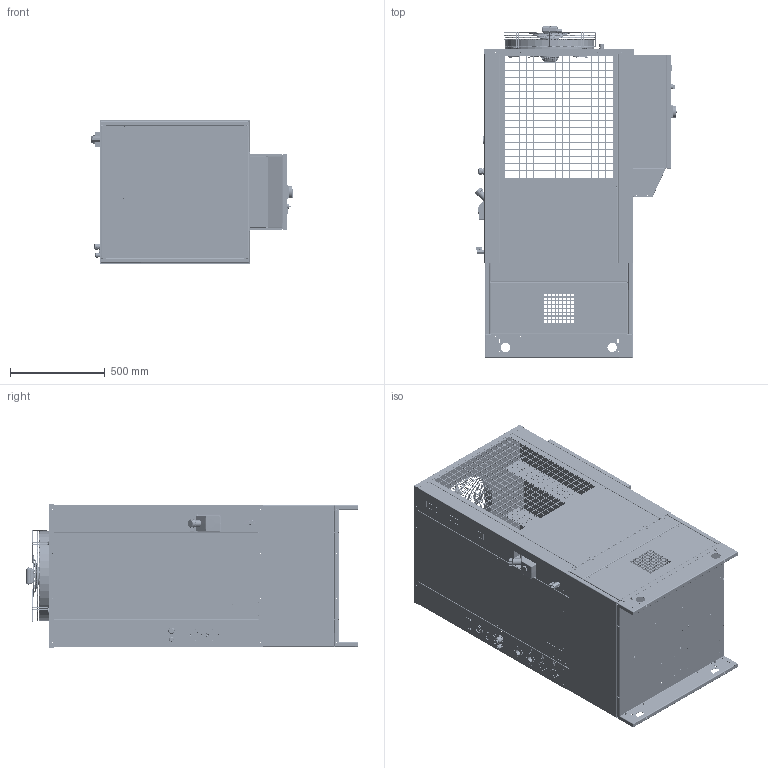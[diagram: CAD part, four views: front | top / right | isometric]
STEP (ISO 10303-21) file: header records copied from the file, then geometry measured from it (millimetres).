
FILE_DESCRIPTION (( 'STEP AP214' ), '1' );
FILE_NAME ('50-2D-00009+50-2D-00012+UL-CSA.STEP', '2018-12-12T11:08:21', ( 'Utente' ), ( 'Microsoft' ), 'SwSTEP 2.0', 'SolidWorks 2013', '' );
FILE_SCHEMA (( 'AUTOMOTIVE_DESIGN' ));
Length unit declared in the file: millimetre
Products named in the file (80): 450-021-C-Z_ASM; VE-W3-00002_000; CR-2D-00010_001; 6D-400-S-012_2_AF0; M3X12; RIVELOX M5; pg-21 nelco_part2_Nut-PA-Grey-33-33-31-Nelco; PRT0002_11_AF0; CXZ-M16_ASM_ASM; 6D-400-S-018-2_22_AF0; CXZ-M16_ASM_1_ASM; VR-3D-00021_000; pg-21 nelco_part1_Socket-1.209.2100.15-Nelco; 450-021-011_AF0; 6D-400-S-040-4_1; VR-2D-00005_001; ST-AT-00020_003; 6D-400-S-040-3_1; QE 400x600x200 + COMPONENTI; PG 13.5_Cable-Gland-1.209.1300.14-Nelco; JUNCTION-BOX-7_ASM; VR-2D-00008_001; DED965FB-6F17-44D8-8B5E-7FBD67AD56EC; PG 13.5_1_Socket-1.209.1300.14-Nelco; 8UF-TOPCOVER-1; SW3dPS-rotary switch_Dial; PG 13.5_2_Nut-PA-Grey-24-24-27-Nelco; 50-2D-00012; WATERPROOF-1; VR-2D-00012_000; SW3dPS-rotary switch_Cowling; VR-2D-00013_001; VR-2D-00024_001; LINKER; SW3dPS-rotary switch_Screw; 8UFCAPACITOR; VR-2D-00011_000; SW3dPS-rotary switch_Indicator Plate; VR-2D-00014_000; VR-2D-00023_003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
Assembly tree (170 placements, depth 5):
  50-2D-00009+50-2D-00012+UL-CSA
    VR-2D-00011_000
      VR-2D-00011_000
      Rivelox M5 Reduced Head Hexagonal Shank.  x8
    VR-2D-00012_000
      VR-2D-00012_000
      Rivelox M5 Reduced Head Hexagonal Shank.  x8
    VR-2D-00008_001
      VR-2D-00008_001
      Rivelox M5 Reduced Head Hexagonal Shank.  x2
    VR-2D-00005_001  x2
      VR-2D-00005_001
      Rivelox M5 Reduced Head Hexagonal Shank.
    VR-3D-00021_000
    CR-2D-00010_001
      CR-2D-00010_001
      RIVELOX M5  x6
    CR-2D-00009_001
      CR-2D-00009_001
      RIVELOX M5  x6
    CR-2D-00002_001
      CR-2D-00002_001
      RIVELOX M5  x6
    VR-2D-00001_002
      VR-2D-00001_002A
      VR-2D-00001_002B
    VR-2D-00014_000
      VR-2D-00014_000
      Rivelox M5 Reduced Head Hexagonal Shank.  x5
    VR-2D-00013_001
      VR-2D-00013_001
      Rivelox M5 Reduced Head Hexagonal Shank.  x5
    PG 13.5_Cable-Gland-1.209.1300.14-Nelco  x2
      PG 13.5_2_Nut-PA-Grey-24-24-27-Nelco
      PG 13.5_1_Socket-1.209.1300.14-Nelco
    ST-AT-00020_003  x2
    VE-W3-00002_000
      450-Z-C-0_ASM
        450-021-C-Z_ASM
          450-021-011_AF0
          6D-400-S-018-2_22_AF0
          PRT0002_11_AF0
          6D-400-S-012_2_AF0
        450-SHAFT
        450-012-C
        350-450-031
      450-Z  x5
      WZ450-GA-2
      M6X16-FL  x4
      JUNCTION-BOX-7_ASM
        8UF-CAPACITOR-1
        8UFCAPACITOR
        LINKER
        WATERPROOF-1
        8UF-TOPCOVER-1
      CXZ-M16_ASM_ASM
        CXZ-M16_ASM_1_ASM
          6D-400-S-040-3_1
          6D-400-S-040-4_1
      M3X12  x2
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Bounding box: 1070.87 x 1751.56 x 756.5 mm (x, y, z)
Volume: 18612879.2 mm3; surface area: 20653066.7 mm2
Topology: 228 solids, 229 shells, 18155 faces, 47122 edges, 29423 vertices
Faces by surface type: plane 9585, cylinder 3714, bspline 3642, cone 1008, torus 165, sphere 41
Entity records: 618960 total; most frequent: CARTESIAN_POINT 284671, ORIENTED_EDGE 74098, DIRECTION 56653, EDGE_CURVE 37049, VERTEX_POINT 23201, LINE 19881, VECTOR 19881, AXIS2_PLACEMENT_3D 18386
